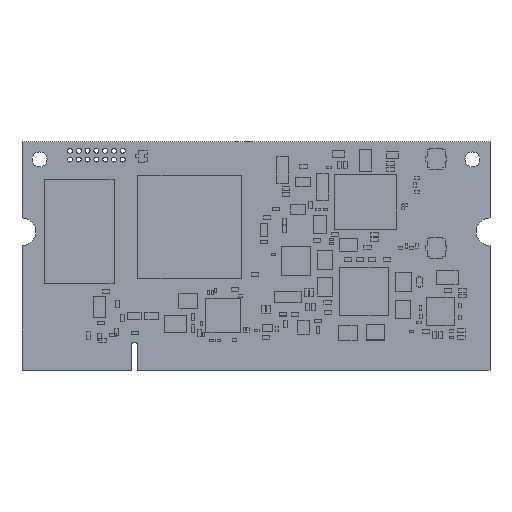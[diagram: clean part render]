
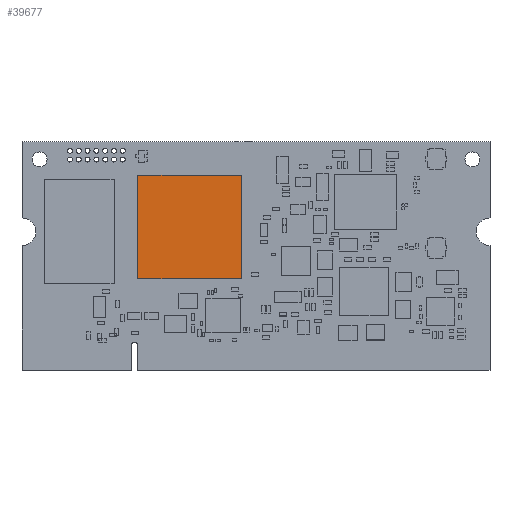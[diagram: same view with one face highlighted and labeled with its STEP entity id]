
A CAD part, top view. The second image highlights one B-rep face of the part: STEP entity #39677.
In plain terms, the highlighted planar face has unit normal (0, 0, 1).
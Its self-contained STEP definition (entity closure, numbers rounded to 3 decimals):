
#3736=PLANE('',#47377);
#6204=FACE_OUTER_BOUND('',#8704,.T.);
#8704=EDGE_LOOP('',(#30990,#30991,#30992,#30993));
#11624=LINE('',#63951,#16616);
#11627=LINE('',#63957,#16619);
#11630=LINE('',#63963,#16622);
#11633=LINE('',#63967,#16625);
#16616=VECTOR('',#52099,10.);
#16619=VECTOR('',#52104,10.);
#16622=VECTOR('',#52109,10.);
#16625=VECTOR('',#52114,10.);
#21394=VERTEX_POINT('',#63948);
#21395=VERTEX_POINT('',#63950);
#21397=VERTEX_POINT('',#63956);
#21399=VERTEX_POINT('',#63962);
#25048=EDGE_CURVE('',#21395,#21394,#11624,.T.);
#25051=EDGE_CURVE('',#21397,#21395,#11627,.T.);
#25054=EDGE_CURVE('',#21399,#21397,#11630,.T.);
#25057=EDGE_CURVE('',#21394,#21399,#11633,.T.);
#30990=ORIENTED_EDGE('',*,*,#25057,.T.);
#30991=ORIENTED_EDGE('',*,*,#25054,.T.);
#30992=ORIENTED_EDGE('',*,*,#25051,.T.);
#30993=ORIENTED_EDGE('',*,*,#25048,.T.);
#39677=ADVANCED_FACE('',(#6204),#3736,.T.);
#47377=AXIS2_PLACEMENT_3D('',#63968,#52115,#52116);
#52099=DIRECTION('',(0.,-1.,0.));
#52104=DIRECTION('',(-1.,0.,0.));
#52109=DIRECTION('',(0.,1.,0.));
#52114=DIRECTION('',(1.,0.,0.));
#52115=DIRECTION('center_axis',(0.,0.,1.));
#52116=DIRECTION('ref_axis',(1.,0.,0.));
#63948=CARTESIAN_POINT('',(-7.5,-7.5,1.481));
#63950=CARTESIAN_POINT('',(-7.5,7.5,1.481));
#63951=CARTESIAN_POINT('',(-7.5,7.5,1.481));
#63956=CARTESIAN_POINT('',(7.5,7.5,1.481));
#63957=CARTESIAN_POINT('',(7.5,7.5,1.481));
#63962=CARTESIAN_POINT('',(7.5,-7.5,1.481));
#63963=CARTESIAN_POINT('',(7.5,-7.5,1.481));
#63967=CARTESIAN_POINT('',(-7.5,-7.5,1.481));
#63968=CARTESIAN_POINT('Origin',(0.,0.,1.481));
